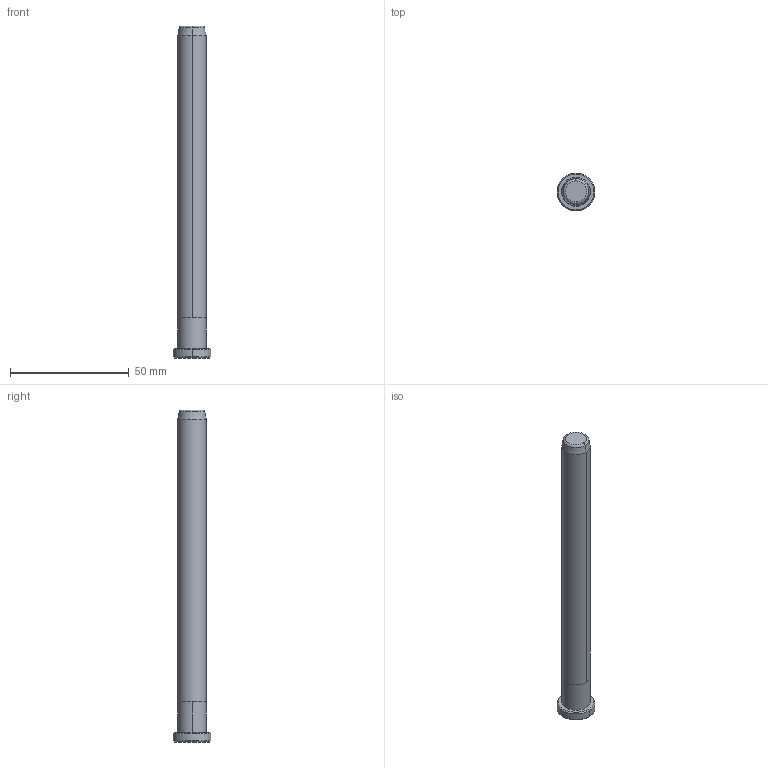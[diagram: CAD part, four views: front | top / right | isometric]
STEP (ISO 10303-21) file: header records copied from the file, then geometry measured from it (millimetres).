
FILE_DESCRIPTION((''),'2;1');
FILE_NAME('B82812140','2018-01-22T',('MANU'),(''),'PRO/ENGINEER BY PARAMETRIC TECHNOLOGY CORPORATION, 2012130','PRO/ENGINEER BY PARAMETRIC TECHNOLOGY CORPORATION, 2012130','');
FILE_SCHEMA(('CONFIG_CONTROL_DESIGN'));
Length unit declared in the file: millimetre
Products named in the file (1): B82812140
Bounding box: 16 x 16 x 140 mm (x, y, z)
Volume: 16122.4 mm3; surface area: 5659.6 mm2
Topology: 1 solids, 1 shells, 18 faces, 34 edges, 20 vertices
Faces by surface type: cone 6, cylinder 6, plane 4, torus 2
Entity records: 494 total; most frequent: DIRECTION 92, CARTESIAN_POINT 72, ORIENTED_EDGE 68, AXIS2_PLACEMENT_3D 40, EDGE_CURVE 34, CIRCLE 22, VERTEX_POINT 20, EDGE_LOOP 20
